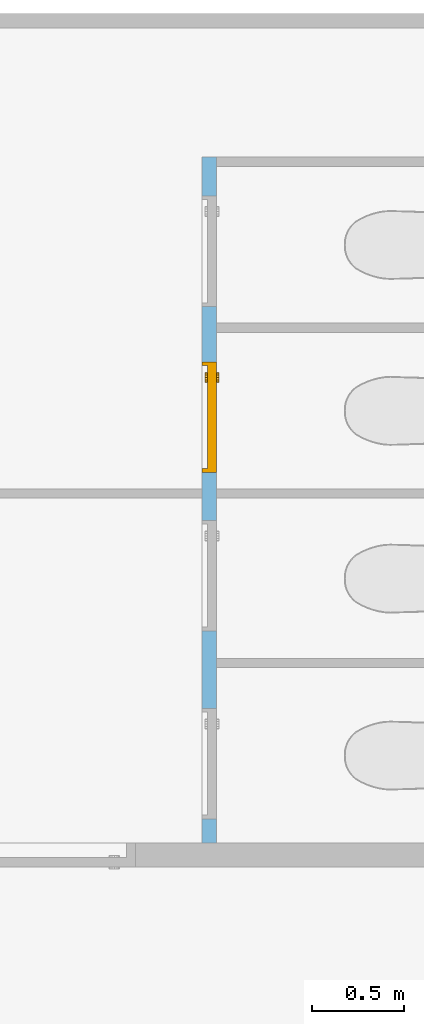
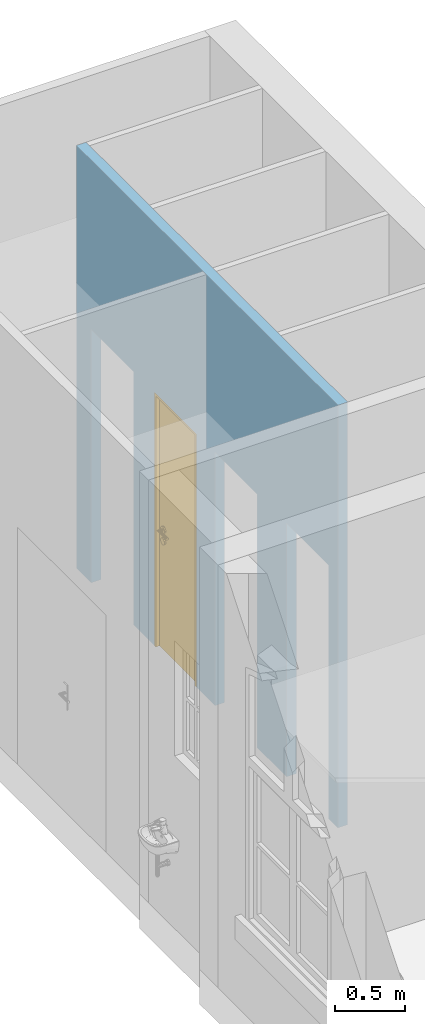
"""IFC4 building model written with IfcOpenShell, lengths in metres."""

import ifcopenshell
import ifcopenshell.guid

model = None  # the IFC model being written
_history = None  # IfcOwnerHistory: only IFC2X3 demands one
_inside = {}  # id of a spatial element -> (the spatial element, [elements in it])
_under = {}  # id of a project, library or spatial element -> (it, [spatial elements below it])
_declared = {}  # id of a project -> (the project, [libraries it declares])
_typed = {}  # id of a type object -> (the type object, [elements of that type])
_made_of = {}  # id of a material, layer set ... -> (it, [elements and type objects made of it])


def new_model(schema):
    """Start an empty IFC model of exactly this schema.

    Asked for "IFC4X3", IfcOpenShell would pick the latest addendum, in which some entities
    have other attributes; the version numbers below select the first issue.
    IFC2X3 requires an IfcOwnerHistory on every rooted entity: one is made here for all.
    """
    global model, _history
    if schema == "IFC4X3":
        model = ifcopenshell.file(schema_version=(4, 3, 0, 0))
    else:
        model = ifcopenshell.file(schema=schema)
    _inside.clear()
    _under.clear()
    _declared.clear()
    _typed.clear()
    _made_of.clear()
    _history = None
    if model.schema == "IFC2X3":
        org = make("IfcOrganization", Name="unknown")
        user = make(
            "IfcPersonAndOrganization",
            ThePerson=make("IfcPerson", FamilyName="unknown"),
            TheOrganization=org,
        )
        app = make(
            "IfcApplication",
            ApplicationDeveloper=org,
            Version="unknown",
            ApplicationFullName="unknown",
            ApplicationIdentifier="unknown",
        )
        _history = make(
            "IfcOwnerHistory",
            OwningUser=user,
            OwningApplication=app,
            ChangeAction="ADDED",
            CreationDate=0,
        )
    return model


def make(cls, **values):
    """One entity of the class cls with the attributes given. An attribute that is None is left unset."""
    return model.create_entity(
        cls, **{name: value for name, value in values.items() if value is not None}
    )


def entity(cls, *values):
    """Any entity or typed value of the class cls, its attributes in the order of the schema. None: left unset."""
    e = model.create_entity(cls)
    for i, value in enumerate(values):
        if value is not None:
            e[i] = value
    return e


def rooted(cls, **values):
    """An entity with a GlobalId (a new one), such as an element, a storey or a relation."""
    return make(cls, GlobalId=ifcopenshell.guid.new(), OwnerHistory=_history, **values)


def si_unit(unit_type, name, prefix=None):
    """IfcSIUnit, for example si_unit("LENGTHUNIT", "METRE", prefix="MILLI")."""
    return make("IfcSIUnit", UnitType=unit_type, Prefix=prefix, Name=name)


def converted_unit(unit_type, name, factor, base, dimensions=None, offset=None):
    """IfcConversionBasedUnit, such as the inch: factor (a typed value) times the base unit."""
    return make(
        "IfcConversionBasedUnit"
        if offset is None
        else "IfcConversionBasedUnitWithOffset",
        ConversionOffset=offset,
        Dimensions=None
        if dimensions is None
        else entity("IfcDimensionalExponents", *dimensions),
        UnitType=unit_type,
        Name=name,
        ConversionFactor=make(
            "IfcMeasureWithUnit", ValueComponent=factor, UnitComponent=base
        ),
    )


def derived_unit(unit_type, elements):
    """IfcDerivedUnit: a product of units, each with its exponent."""
    return make(
        "IfcDerivedUnit",
        Elements=[
            make("IfcDerivedUnitElement", Unit=unit, Exponent=power)
            for unit, power in elements
        ],
        UnitType=unit_type,
    )


def assignment(units):
    """IfcUnitAssignment: the units of a project."""
    return None if units is None else make("IfcUnitAssignment", Units=units)


def point(xyz):
    """IfcCartesianPoint."""
    return None if xyz is None else make("IfcCartesianPoint", Coordinates=xyz)


def direction(xyz):
    """IfcDirection."""
    return None if xyz is None else make("IfcDirection", DirectionRatios=xyz)


def frame(location, z_axis=None, x_axis=None):
    """IfcAxis2Placement3D, a coordinate frame: its origin and axes. An axis left out is left unset."""
    return make(
        "IfcAxis2Placement3D",
        Location=point(location),
        Axis=direction(z_axis),
        RefDirection=direction(x_axis),
    )


def frame_2d(location, x_axis=None):
    """IfcAxis2Placement2D, a coordinate frame in the plane: its origin and x axis."""
    return make(
        "IfcAxis2Placement2D", Location=point(location), RefDirection=direction(x_axis)
    )


def origin():
    """The frame at (0, 0, 0) with its axes left unset."""
    return frame((0.0, 0.0, 0.0))


def origin_with_axes():
    """The frame at (0, 0, 0) with the z axis (0, 0, 1) and the x axis (1, 0, 0) written out."""
    return frame((0.0, 0.0, 0.0), z_axis=(0.0, 0.0, 1.0), x_axis=(1.0, 0.0, 0.0))


def place(relative_to, where):
    """IfcLocalPlacement: puts the frame where relative to a parent placement (None: the world)."""
    return make(
        "IfcLocalPlacement", PlacementRelTo=relative_to, RelativePlacement=where
    )


def context(
    kind, dimensions, precision=None, world=None, true_north=None, identifier=None
):
    """IfcGeometricRepresentationContext, for example the 3D "Model" context."""
    return make(
        "IfcGeometricRepresentationContext",
        ContextIdentifier=identifier,
        ContextType=kind,
        CoordinateSpaceDimension=dimensions,
        Precision=precision,
        WorldCoordinateSystem=world,
        TrueNorth=true_north,
    )


def subcontext(parent, identifier, kind, view, scale=None):
    """IfcGeometricRepresentationSubContext, for example "Body" below "Model"."""
    return make(
        "IfcGeometricRepresentationSubContext",
        ContextIdentifier=identifier,
        ContextType=kind,
        ParentContext=parent,
        TargetScale=scale,
        TargetView=view,
    )


def project(units=None, contexts=None):
    """IfcProject with its units and contexts."""
    return rooted(
        "IfcProject",
        Name="project",
        RepresentationContexts=contexts,
        UnitsInContext=assignment(units),
    )


def spatial(cls, under=None, at=None, **own):
    """A site, building, storey or space (cls), placed at a placement, below another one or the project."""
    s = rooted(cls, ObjectPlacement=at, **own)
    if under is not None:
        _under.setdefault(under.id(), (under, []))[1].append(s)
    return s


def polyline(points):
    """IfcPolyline through the points."""
    return make("IfcPolyline", Points=[point(p) for p in points])


def profile(cls, at=None, kind="AREA", **sizes):
    """A parametric profile (cls). Its sizes go by their IFC names, for example OverallWidth=200.0."""
    return make(cls, ProfileType=kind, Position=at, **sizes)


def rectangle(**sizes):
    """IfcRectangleProfileDef."""
    return profile("IfcRectangleProfileDef", **sizes)


def outline(outer, holes=None, kind="AREA"):
    """IfcArbitraryClosedProfileDef: a profile drawn as a closed curve; with holes, ...WithVoids."""
    if holes is None:
        return make("IfcArbitraryClosedProfileDef", ProfileType=kind, OuterCurve=outer)
    return make(
        "IfcArbitraryProfileDefWithVoids",
        ProfileType=kind,
        OuterCurve=outer,
        InnerCurves=holes,
    )


def extrude(swept, where, along, depth):
    """IfcExtrudedAreaSolid: the profile swept, set in the frame where, extruded along a direction by depth."""
    return make(
        "IfcExtrudedAreaSolid",
        SweptArea=swept,
        Position=where,
        ExtrudedDirection=direction(along),
        Depth=depth,
    )


def faces_of(points, faces, orient=None, outer=None):
    """IfcFace entities. A face is a list of loops; a loop is a list of indices into points, from 0.

    orient and outer hold one flag for each loop. By default every Orientation is true, the
    first loop of a face is its IfcFaceOuterBound and the others are IfcFaceBound.
    """
    made = []
    for i, loops in enumerate(faces):
        bounds = []
        for j, loop in enumerate(loops):
            is_outer = j == 0 if outer is None else outer[i][j]
            bounds.append(
                make(
                    "IfcFaceOuterBound" if is_outer else "IfcFaceBound",
                    Bound=make("IfcPolyLoop", Polygon=[points[k] for k in loop]),
                    Orientation=True if orient is None else orient[i][j],
                )
            )
        made.append(make("IfcFace", Bounds=bounds))
    return made


def faceted_brep(points, faces, orient=None, outer=None, voids=None):
    """IfcFacetedBrep: a solid bounded by flat faces; with voids (closed shells), ...WithVoids."""
    shared = [point(p) for p in points]
    hull = make("IfcClosedShell", CfsFaces=faces_of(shared, faces, orient, outer))
    if voids is None:
        return make("IfcFacetedBrep", Outer=hull)
    return make(
        "IfcFacetedBrepWithVoids",
        Outer=hull,
        Voids=[
            make(cls, CfsFaces=faces_of(shared, fs, o, b)) for cls, fs, o, b in voids
        ],
    )


def shape(context_of_items, identifier, shape_type, items):
    """IfcShapeRepresentation: the items that make up one representation, for example the "Body"."""
    return make(
        "IfcShapeRepresentation",
        ContextOfItems=context_of_items,
        RepresentationIdentifier=identifier,
        RepresentationType=shape_type,
        Items=items,
    )


def source(mapping_origin, context_of_items, identifier, shape_type, items):
    """IfcRepresentationMap: a shape defined once, which mapped items show again and again."""
    return make(
        "IfcRepresentationMap",
        MappingOrigin=mapping_origin,
        MappedRepresentation=shape(context_of_items, identifier, shape_type, items),
    )


def transform(
    local_origin,
    x_axis=None,
    y_axis=None,
    z_axis=None,
    scale=None,
    scale2=None,
    scale3=None,
    uniform=True,
):
    """IfcCartesianTransformationOperator3D, or its non-uniform kind. x_axis, y_axis, z_axis: its Axis1, 2, 3."""
    if uniform:
        return make(
            "IfcCartesianTransformationOperator3D",
            Axis1=direction(x_axis),
            Axis2=direction(y_axis),
            LocalOrigin=point(local_origin),
            Scale=scale,
            Axis3=direction(z_axis),
        )
    return make(
        "IfcCartesianTransformationOperator3DnonUniform",
        Axis1=direction(x_axis),
        Axis2=direction(y_axis),
        LocalOrigin=point(local_origin),
        Scale=scale,
        Axis3=direction(z_axis),
        Scale2=scale2,
        Scale3=scale3,
    )


def mapped(mapping_source, mapping_target):
    """IfcMappedItem: shows the shape of a source again, moved by a transform."""
    return make(
        "IfcMappedItem", MappingSource=mapping_source, MappingTarget=mapping_target
    )


def material(Name=None, Category=None):
    """IfcMaterial."""
    return make("IfcMaterial", Name=Name, Category=Category)


def layer(
    of_material, thickness, ventilated=None, Name=None, Category=None, Priority=None
):
    """IfcMaterialLayer: one layer of a wall or slab, of a material (None: an air gap)."""
    return make(
        "IfcMaterialLayer",
        Material=of_material,
        LayerThickness=thickness,
        IsVentilated=ventilated,
        Name=Name,
        Category=Category,
        Priority=Priority,
    )


def layer_set(layers, Name=None):
    """IfcMaterialLayerSet."""
    return make("IfcMaterialLayerSet", MaterialLayers=layers, LayerSetName=Name)


def layer_usage(for_layer_set, set_direction, sense, offset, extent=None):
    """IfcMaterialLayerSetUsage: how a layer set lies in its element."""
    return make(
        "IfcMaterialLayerSetUsage",
        ForLayerSet=for_layer_set,
        LayerSetDirection=set_direction,
        DirectionSense=sense,
        OffsetFromReferenceLine=offset,
        ReferenceExtent=extent,
    )


def made_of(thing, what):
    """Note that an element or type object is made of a material, layer set ...; save() writes the relation."""
    if what is not None:
        _made_of.setdefault(what.id(), (what, []))[1].append(thing)
    return thing


def type_object(cls, material=None, **own):
    """A type object (cls), such as IfcWallType, which elements share."""
    return made_of(rooted(cls, **own), material)


def element(
    cls,
    number,
    at=None,
    inside=None,
    cuts=None,
    type_object=None,
    material=None,
    context=None,
    identifier="Body",
    shape_type=None,
    held_by="IfcProductDefinitionShape",
    body=None,
    shapes=None,
    **own,
):
    """One element of the class cls, such as IfcWall. Its Tag is "e" and its number.

    at: its placement. inside: the storey or other place that contains it. cuts: it is an
    opening in that element (IfcRelVoidsElement). A single representation is given by context,
    identifier, shape_type and body (its items); several are given by shapes. held_by: the class
    of the entity that holds the representations. save() writes the other relations.
    """
    e = rooted(cls, Tag="e%d" % number, ObjectPlacement=at, **own)
    if body is not None:
        shapes = [shape(context, identifier, shape_type, body)]
    if shapes is not None:
        e.Representation = make(held_by, Representations=shapes)
    if inside is not None:
        _inside.setdefault(inside.id(), (inside, []))[1].append(e)
    if cuts is not None:
        rooted(
            "IfcRelVoidsElement", RelatingBuildingElement=cuts, RelatedOpeningElement=e
        )
    if type_object is not None:
        _typed.setdefault(type_object.id(), (type_object, []))[1].append(e)
    return made_of(e, material)


def fill(opening, filler):
    """IfcRelFillsElement: the door or window that sits in an opening."""
    return rooted(
        "IfcRelFillsElement",
        RelatingOpeningElement=opening,
        RelatedBuildingElement=filler,
    )


def aggregate(whole, parts):
    """IfcRelAggregates: a whole, such as a stair, and the parts it consists of."""
    return rooted("IfcRelAggregates", RelatingObject=whole, RelatedObjects=parts)


def save(model, path):
    """Write the relations noted so far, then the file.

    IfcRelAggregates (storeys below a building ...), IfcRelContainedInSpatialStructure (elements
    in a storey), IfcRelDefinesByType, IfcRelAssociatesMaterial and IfcRelDeclares: one each for
    every whole, place, type object, material and project.
    """
    for whole, parts in _under.values():
        aggregate(whole, parts)
    for where, things in _inside.values():
        rooted(
            "IfcRelContainedInSpatialStructure",
            RelatedElements=things,
            RelatingStructure=where,
        )
    for kind, things in _typed.values():
        rooted("IfcRelDefinesByType", RelatedObjects=things, RelatingType=kind)
    for what, things in _made_of.values():
        rooted("IfcRelAssociatesMaterial", RelatedObjects=things, RelatingMaterial=what)
    for by, libraries in _declared.values():
        rooted("IfcRelDeclares", RelatingContext=by, RelatedDefinitions=libraries)
    model.write(path)


model = new_model("IFC4")

# Units and contexts
model_context = context("Model", 3, precision=1e-05, world=origin())
body_context = subcontext(model_context, "Body", "Model", "MODEL_VIEW")
ifc_project = project(units=[si_unit("LENGTHUNIT", "METRE"), si_unit("AREAUNIT", "SQUARE_METRE"), si_unit("VOLUMEUNIT", "CUBIC_METRE"), si_unit("MASSUNIT", "GRAM", prefix="KILO"), converted_unit("PLANEANGLEUNIT", "DEGREE", entity("IfcPlaneAngleMeasure", 0.0174532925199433), si_unit("PLANEANGLEUNIT", "RADIAN"), dimensions=[0, 0, 0, 0, 0, 0, 0]), derived_unit("THERMALTRANSMITTANCEUNIT", [(si_unit("POWERUNIT", "WATT"), 1), (si_unit("THERMODYNAMICTEMPERATUREUNIT", "KELVIN"), -1), (si_unit("LENGTHUNIT", "METRE"), -2)]), derived_unit("VOLUMETRICFLOWRATEUNIT", [(si_unit("LENGTHUNIT", "METRE"), 3), (converted_unit("TIMEUNIT", "hour", entity("IfcTimeMeasure", 3600.0), si_unit("TIMEUNIT", "SECOND"), dimensions=[0, 0, 1, 0, 0, 0, 0]), -1), (si_unit("LENGTHUNIT", "METRE"), -1)])], contexts=[model_context])

# Building, storeys
building_placement = place(None, origin())
building = spatial("IfcBuilding", under=ifc_project, at=building_placement, Name="Bestandsgebäude A - Sporthalle / Wohnhaus (TB 100-499)   ANPASSEN !!!", CompositionType="ELEMENT")
storey_1_placement = place(building_placement, origin())
storey_1 = spatial("IfcBuildingStorey", under=building, at=storey_1_placement, Name="Geb. A Erdgeschoss (TB 200-249)", CompositionType="ELEMENT", Elevation=0.0)
storey_2_placement = place(storey_1_placement, origin())
storey_2 = spatial("IfcBuildingStorey", under=storey_1, at=storey_2_placement, Name="Architektur (TB 200-209)", CompositionType="PARTIAL")

# Wall, openings, door
ifc_material = material(Name="masonry")
ifc_layer = layer(ifc_material, 0.08)
ifc_layer_set = layer_set([ifc_layer])
ifc_layer_usage = layer_usage(ifc_layer_set, "AXIS2", "POSITIVE", 0.0)
wall_placement = place(storey_2_placement, frame((-1.75999999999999, 20.98, 0.0), z_axis=(0.0, 0.0, 1.0), x_axis=(0.0, -1.0, 0.0)))
wall = element("IfcWall", 1, at=wall_placement, inside=storey_2, material=ifc_layer_usage, Name="masonry load-bearing", PredefinedType="USERDEFINED", context=body_context, shape_type="SweptSolid", body=[
    extrude(rectangle(XDim=3.72000000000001, YDim=0.08, at=frame_2d((1.86, 0.04), x_axis=(1.0, 0.0))), origin_with_axes(), (0.0, 0.0, 1.0), 3.67),
])
opening_1_placement = place(wall_placement, frame((0.210000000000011, 0.0, 0.0), z_axis=(0.0, 1.0, 0.0), x_axis=(0.0, 0.0, 1.0)))
element("IfcOpeningElement", 2, at=opening_1_placement, cuts=wall, Name="Door opening", PredefinedType="OPENING", context=body_context, shape_type="SweptSolid", body=[
    extrude(outline(polyline([(2.2, 0.6), (2.2, 0.0), (0.0, 0.0), (0.0, 0.6), (2.2, 0.6)])), origin_with_axes(), (0.0, 0.0, 1.0), 0.08),
])
opening_2_placement = place(wall_placement, frame((1.11000000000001, 0.0, 0.0), z_axis=(0.0, 1.0, 0.0), x_axis=(0.0, 0.0, 1.0)))
opening_2 = element("IfcOpeningElement", 3, at=opening_2_placement, cuts=wall, Name="Door opening", PredefinedType="OPENING", context=body_context, shape_type="SweptSolid", body=[
    extrude(outline(polyline([(2.2, 0.6), (2.2, 0.0), (0.0, 0.0), (0.0, 0.6), (2.2, 0.6)])), origin_with_axes(), (0.0, 0.0, 1.0), 0.08),
])
opening_3_placement = place(wall_placement, frame((2.99000000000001, 0.0, 0.0), z_axis=(0.0, 1.0, 0.0), x_axis=(0.0, 0.0, 1.0)))
element("IfcOpeningElement", 4, at=opening_3_placement, cuts=wall, Name="Door opening", PredefinedType="OPENING", context=body_context, shape_type="SweptSolid", body=[
    extrude(outline(polyline([(2.2, 0.6), (2.2, 0.0), (0.0, 0.0), (0.0, 0.6), (2.2, 0.6)])), origin_with_axes(), (0.0, 0.0, 1.0), 0.08),
])
opening_4_placement = place(wall_placement, frame((1.97000000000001, 0.0, 0.0), z_axis=(0.0, 1.0, 0.0), x_axis=(0.0, 0.0, 1.0)))
element("IfcOpeningElement", 5, at=opening_4_placement, cuts=wall, Name="Door opening", PredefinedType="OPENING", context=body_context, shape_type="SweptSolid", body=[
    extrude(outline(polyline([(2.2, 0.6), (2.2, 0.0), (0.0, 0.0), (0.0, 0.6), (2.2, 0.6)])), origin_with_axes(), (0.0, 0.0, 1.0), 0.08),
])
door_type = type_object("IfcDoorType", Name="door", OperationType="SINGLE_SWING_RIGHT", ParameterTakesPrecedence=False, PredefinedType="DOOR")
shared_shape = source(origin_with_axes(), body_context, "Body", "Brep", [
    faceted_brep([(0.0, 0.0800000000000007, 2.2), (0.0, 0.0800000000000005, 0.0), (0.0200000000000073, 0.0800000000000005, 0.0), (0.0200000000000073, 0.0800000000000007, 2.2), (0.0, 0.0, 0.0), (0.0, 0.0, 2.2), (0.0200000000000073, 0.0, 2.2), (0.0200000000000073, 0.0, 0.0)], [[[0, 1, 2, 3]], [[4, 5, 6, 7]], [[1, 0, 5, 4]], [[2, 1, 4, 7]], [[3, 2, 7, 6]], [[0, 3, 6, 5]]], orient=[[False], [False], [False], [False], [False], [False]]),
    faceted_brep([(0.580000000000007, 0.0800000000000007, 2.2), (0.580000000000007, 0.0800000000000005, 0.0), (0.600000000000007, 0.0800000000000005, 0.0), (0.600000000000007, 0.0800000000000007, 2.2), (0.580000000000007, 0.0, 0.0), (0.580000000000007, 0.0, 2.2), (0.600000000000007, 0.0, 2.2), (0.600000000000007, 0.0, 0.0)], [[[0, 1, 2, 3]], [[4, 5, 6, 7]], [[1, 0, 5, 4]], [[2, 1, 4, 7]], [[3, 2, 7, 6]], [[0, 3, 6, 5]]], orient=[[False], [False], [False], [False], [False], [False]]),
    faceted_brep([(0.0200000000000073, 0.0800000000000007, 2.2), (0.0200000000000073, 0.0800000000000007, 2.18), (0.580000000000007, 0.0800000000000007, 2.18), (0.580000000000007, 0.0800000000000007, 2.2), (0.0200000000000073, 0.0, 2.18), (0.0200000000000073, 0.0, 2.2), (0.580000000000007, 0.0, 2.2), (0.580000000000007, 0.0, 2.18)], [[[0, 1, 2, 3]], [[4, 5, 6, 7]], [[1, 0, 5, 4]], [[2, 1, 4, 7]], [[3, 2, 7, 6]], [[0, 3, 6, 5]]], orient=[[False], [False], [False], [False], [False], [False]]),
    faceted_brep([(0.0200000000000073, 0.0800000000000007, 2.18), (0.0200000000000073, 0.0800000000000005, 0.0), (0.580000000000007, 0.0800000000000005, 0.0), (0.580000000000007, 0.0800000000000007, 2.18), (0.0200000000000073, 0.0300000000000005, 0.0), (0.0200000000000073, 0.0300000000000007, 2.18), (0.580000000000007, 0.0300000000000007, 2.18), (0.580000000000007, 0.0300000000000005, 0.0)], [[[0, 1, 2, 3]], [[4, 5, 6, 7]], [[1, 0, 5, 4]], [[2, 1, 4, 7]], [[3, 2, 7, 6]], [[0, 3, 6, 5]]], orient=[[False], [False], [False], [False], [False], [False]]),
    faceted_brep([(0.108815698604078, 0.0300000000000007, 0.93625), (0.112500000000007, 0.0300000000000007, 0.95), (0.108815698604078, 0.0300000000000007, 0.96375), (0.0987500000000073, 0.0300000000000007, 0.973815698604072), (0.0850000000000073, 0.0300000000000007, 0.9775), (0.0712500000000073, 0.0300000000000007, 0.973815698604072), (0.0611843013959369, 0.0300000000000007, 0.96375), (0.0575000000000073, 0.0300000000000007, 0.95), (0.0611843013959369, 0.0300000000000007, 0.93625), (0.0712500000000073, 0.0300000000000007, 0.926184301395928), (0.0850000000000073, 0.0300000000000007, 0.9225), (0.0987500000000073, 0.0300000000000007, 0.926184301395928), (0.112500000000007, 0.0175000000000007, 0.95), (0.108815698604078, 0.0175000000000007, 0.93625), (0.0987500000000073, 0.0175000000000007, 0.926184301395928), (0.0850000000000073, 0.0175000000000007, 0.9225), (0.0712500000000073, 0.0175000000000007, 0.926184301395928), (0.0611843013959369, 0.0175000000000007, 0.93625), (0.0575000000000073, 0.0175000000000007, 0.95), (0.0611843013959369, 0.0175000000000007, 0.96375), (0.0712500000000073, 0.0175000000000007, 0.973815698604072), (0.0850000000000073, 0.0175000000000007, 0.9775), (0.0987500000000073, 0.0175000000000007, 0.973815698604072), (0.108815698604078, 0.0175000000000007, 0.96375)], [[[0, 1, 2, 3, 4, 5, 6, 7, 8, 9, 10, 11]], [[12, 13, 14, 15, 16, 17, 18, 19, 20, 21, 22, 23]], [[1, 0, 13, 12]], [[2, 1, 12, 23]], [[3, 2, 23, 22]], [[4, 3, 22, 21]], [[5, 4, 21, 20]], [[6, 5, 20, 19]], [[7, 6, 19, 18]], [[8, 7, 18, 17]], [[9, 8, 17, 16]], [[10, 9, 16, 15]], [[11, 10, 15, 14]], [[0, 11, 14, 13]]], orient=[[False], [False], [False], [False], [False], [False], [False], [False], [False], [False], [False], [False], [False], [False]]),
    faceted_brep([(0.108815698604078, 0.0300000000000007, 1.03625), (0.112500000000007, 0.0300000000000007, 1.05), (0.108815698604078, 0.0300000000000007, 1.06375), (0.0987500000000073, 0.0300000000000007, 1.07381569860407), (0.0850000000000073, 0.0300000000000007, 1.0775), (0.0712500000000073, 0.0300000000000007, 1.07381569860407), (0.0611843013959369, 0.0300000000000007, 1.06375), (0.0575000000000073, 0.0300000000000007, 1.05), (0.0611843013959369, 0.0300000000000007, 1.03625), (0.0712500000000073, 0.0300000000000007, 1.02618430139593), (0.0850000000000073, 0.0300000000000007, 1.0225), (0.0987500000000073, 0.0300000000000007, 1.02618430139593), (0.112500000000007, 0.0175000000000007, 1.05), (0.108815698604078, 0.0175000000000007, 1.03625), (0.0987500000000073, 0.0175000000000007, 1.02618430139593), (0.0850000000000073, 0.0175000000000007, 1.0225), (0.0712500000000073, 0.0175000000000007, 1.02618430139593), (0.0611843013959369, 0.0175000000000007, 1.03625), (0.0575000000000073, 0.0175000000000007, 1.05), (0.0611843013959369, 0.0175000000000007, 1.06375), (0.0712500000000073, 0.0175000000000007, 1.07381569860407), (0.0850000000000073, 0.0175000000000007, 1.0775), (0.0987500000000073, 0.0175000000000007, 1.07381569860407), (0.108815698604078, 0.0175000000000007, 1.06375)], [[[0, 1, 2, 3, 4, 5, 6, 7, 8, 9, 10, 11]], [[12, 13, 14, 15, 16, 17, 18, 19, 20, 21, 22, 23]], [[1, 0, 13, 12]], [[2, 1, 12, 23]], [[3, 2, 23, 22]], [[4, 3, 22, 21]], [[5, 4, 21, 20]], [[6, 5, 20, 19]], [[7, 6, 19, 18]], [[8, 7, 18, 17]], [[9, 8, 17, 16]], [[10, 9, 16, 15]], [[11, 10, 15, 14]], [[0, 11, 14, 13]]], orient=[[False], [False], [False], [False], [False], [False], [False], [False], [False], [False], [False], [False], [False], [False]]),
    faceted_brep([(0.0850000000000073, 0.0300000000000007, 1.06), (0.0800000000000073, 0.0300000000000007, 1.05866025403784), (0.0763397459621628, 0.0300000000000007, 1.055), (0.0750000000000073, 0.0300000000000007, 1.05), (0.0763397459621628, 0.0300000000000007, 1.045), (0.0800000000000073, 0.0300000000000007, 1.04133974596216), (0.0850000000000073, 0.0300000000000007, 1.04), (0.0900000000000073, 0.0300000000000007, 1.04133974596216), (0.0936602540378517, 0.0300000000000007, 1.045), (0.0950000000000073, 0.0300000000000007, 1.05), (0.0936602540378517, 0.0300000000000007, 1.055), (0.0900000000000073, 0.0300000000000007, 1.05866025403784), (0.0850000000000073, -0.00999999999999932, 1.06), (0.0800000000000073, -0.0149999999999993, 1.05866025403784), (0.0763397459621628, -0.0186602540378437, 1.055), (0.0750000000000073, -0.0199999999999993, 1.05), (0.0763397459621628, -0.0186602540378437, 1.045), (0.0800000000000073, -0.0149999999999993, 1.04133974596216), (0.0850000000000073, -0.00999999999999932, 1.04), (0.0900000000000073, -0.00499999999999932, 1.04133974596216), (0.0936602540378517, -0.00133974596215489, 1.045), (0.0950000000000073, 0.0, 1.05), (0.0936602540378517, -0.00133974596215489, 1.055), (0.0900000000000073, -0.00499999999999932, 1.05866025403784), (0.200000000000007, -0.00999999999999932, 1.06), (0.200000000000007, -0.00499999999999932, 1.05866025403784), (0.200000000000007, -0.00133974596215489, 1.055), (0.200000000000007, 0.0, 1.05), (0.200000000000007, -0.00133974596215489, 1.045), (0.200000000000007, -0.00499999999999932, 1.04133974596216), (0.200000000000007, -0.00999999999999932, 1.04), (0.200000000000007, -0.0149999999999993, 1.04133974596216), (0.200000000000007, -0.0186602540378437, 1.045), (0.200000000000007, -0.0199999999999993, 1.05), (0.200000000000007, -0.0186602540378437, 1.055), (0.200000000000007, -0.0149999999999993, 1.05866025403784)], [[[0, 1, 2, 3, 4, 5, 6, 7, 8, 9, 10, 11]], [[0, 12, 13, 1]], [[1, 13, 14, 2]], [[2, 14, 15, 3]], [[3, 15, 16, 4]], [[4, 16, 17, 5]], [[5, 17, 18, 6]], [[6, 18, 19, 7]], [[7, 19, 20, 8]], [[8, 20, 21, 9]], [[9, 21, 22, 10]], [[10, 22, 23, 11]], [[11, 23, 12, 0]], [[24, 25, 26, 27, 28, 29, 30, 31, 32, 33, 34, 35]], [[12, 24, 35, 13]], [[13, 35, 34, 14]], [[14, 34, 33, 15]], [[15, 33, 32, 16]], [[16, 32, 31, 17]], [[17, 31, 30, 18]], [[18, 30, 29, 19]], [[19, 29, 28, 20]], [[20, 28, 27, 21]], [[21, 27, 26, 22]], [[22, 26, 25, 23]], [[23, 25, 24, 12]]], orient=[[False], [False], [False], [False], [False], [False], [False], [False], [False], [False], [False], [False], [False], [False], [False], [False], [False], [False], [False], [False], [False], [False], [False], [False], [False], [False]]),
    faceted_brep([(0.108815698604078, 0.0800000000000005, 0.93625), (0.0987500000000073, 0.0800000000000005, 0.926184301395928), (0.0850000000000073, 0.0800000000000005, 0.9225), (0.0712500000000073, 0.0800000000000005, 0.926184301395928), (0.0611843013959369, 0.0800000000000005, 0.93625), (0.0575000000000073, 0.0800000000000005, 0.95), (0.0611843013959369, 0.0800000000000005, 0.96375), (0.0712500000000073, 0.0800000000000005, 0.973815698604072), (0.0850000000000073, 0.0800000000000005, 0.9775), (0.0987500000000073, 0.0800000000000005, 0.973815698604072), (0.108815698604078, 0.0800000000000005, 0.96375), (0.112500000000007, 0.0800000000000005, 0.95), (0.112500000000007, 0.0925000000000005, 0.95), (0.108815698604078, 0.0925000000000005, 0.96375), (0.0987500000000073, 0.0925000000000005, 0.973815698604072), (0.0850000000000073, 0.0925000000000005, 0.9775), (0.0712500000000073, 0.0925000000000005, 0.973815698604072), (0.0611843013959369, 0.0925000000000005, 0.96375), (0.0575000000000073, 0.0925000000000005, 0.95), (0.0611843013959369, 0.0925000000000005, 0.93625), (0.0712500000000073, 0.0925000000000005, 0.926184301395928), (0.0850000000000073, 0.0925000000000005, 0.9225), (0.0987500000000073, 0.0925000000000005, 0.926184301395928), (0.108815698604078, 0.0925000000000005, 0.93625)], [[[0, 1, 2, 3, 4, 5, 6, 7, 8, 9, 10, 11]], [[12, 13, 14, 15, 16, 17, 18, 19, 20, 21, 22, 23]], [[11, 12, 23, 0]], [[10, 13, 12, 11]], [[9, 14, 13, 10]], [[8, 15, 14, 9]], [[7, 16, 15, 8]], [[6, 17, 16, 7]], [[5, 18, 17, 6]], [[4, 19, 18, 5]], [[3, 20, 19, 4]], [[2, 21, 20, 3]], [[1, 22, 21, 2]], [[0, 23, 22, 1]]], orient=[[False], [False], [False], [False], [False], [False], [False], [False], [False], [False], [False], [False], [False], [False]]),
    faceted_brep([(0.108815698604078, 0.0800000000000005, 1.03625), (0.0987500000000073, 0.0800000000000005, 1.02618430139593), (0.0850000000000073, 0.0800000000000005, 1.0225), (0.0712500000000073, 0.0800000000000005, 1.02618430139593), (0.0611843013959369, 0.0800000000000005, 1.03625), (0.0575000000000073, 0.0800000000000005, 1.05), (0.0611843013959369, 0.0800000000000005, 1.06375), (0.0712500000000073, 0.0800000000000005, 1.07381569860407), (0.0850000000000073, 0.0800000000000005, 1.0775), (0.0987500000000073, 0.0800000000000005, 1.07381569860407), (0.108815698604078, 0.0800000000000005, 1.06375), (0.112500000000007, 0.0800000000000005, 1.05), (0.112500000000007, 0.0925000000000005, 1.05), (0.108815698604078, 0.0925000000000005, 1.06375), (0.0987500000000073, 0.0925000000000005, 1.07381569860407), (0.0850000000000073, 0.0925000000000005, 1.0775), (0.0712500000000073, 0.0925000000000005, 1.07381569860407), (0.0611843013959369, 0.0925000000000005, 1.06375), (0.0575000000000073, 0.0925000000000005, 1.05), (0.0611843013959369, 0.0925000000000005, 1.03625), (0.0712500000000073, 0.0925000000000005, 1.02618430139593), (0.0850000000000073, 0.0925000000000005, 1.0225), (0.0987500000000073, 0.0925000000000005, 1.02618430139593), (0.108815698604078, 0.0925000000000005, 1.03625)], [[[0, 1, 2, 3, 4, 5, 6, 7, 8, 9, 10, 11]], [[12, 13, 14, 15, 16, 17, 18, 19, 20, 21, 22, 23]], [[11, 12, 23, 0]], [[10, 13, 12, 11]], [[9, 14, 13, 10]], [[8, 15, 14, 9]], [[7, 16, 15, 8]], [[6, 17, 16, 7]], [[5, 18, 17, 6]], [[4, 19, 18, 5]], [[3, 20, 19, 4]], [[2, 21, 20, 3]], [[1, 22, 21, 2]], [[0, 23, 22, 1]]], orient=[[False], [False], [False], [False], [False], [False], [False], [False], [False], [False], [False], [False], [False], [False]]),
    faceted_brep([(0.0850000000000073, 0.0800000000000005, 1.06), (0.0900000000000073, 0.0800000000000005, 1.05866025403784), (0.0936602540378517, 0.0800000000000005, 1.055), (0.0950000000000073, 0.0800000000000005, 1.05), (0.0936602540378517, 0.0800000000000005, 1.045), (0.0900000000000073, 0.0800000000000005, 1.04133974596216), (0.0850000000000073, 0.0800000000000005, 1.04), (0.0800000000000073, 0.0800000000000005, 1.04133974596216), (0.0763397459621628, 0.0800000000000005, 1.045), (0.0750000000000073, 0.0800000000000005, 1.05), (0.0763397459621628, 0.0800000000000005, 1.055), (0.0800000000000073, 0.0800000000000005, 1.05866025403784), (0.0800000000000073, 0.125, 1.05866025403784), (0.0850000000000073, 0.12, 1.06), (0.0763397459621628, 0.128660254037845, 1.055), (0.0750000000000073, 0.13, 1.05), (0.0763397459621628, 0.128660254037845, 1.045), (0.0800000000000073, 0.125, 1.04133974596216), (0.0850000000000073, 0.12, 1.04), (0.0900000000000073, 0.115, 1.04133974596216), (0.0936602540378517, 0.111339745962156, 1.045), (0.0950000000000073, 0.11, 1.05), (0.0936602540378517, 0.111339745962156, 1.055), (0.0900000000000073, 0.115, 1.05866025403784), (0.200000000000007, 0.12, 1.06), (0.200000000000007, 0.125, 1.05866025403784), (0.200000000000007, 0.128660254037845, 1.055), (0.200000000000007, 0.13, 1.05), (0.200000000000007, 0.128660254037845, 1.045), (0.200000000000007, 0.125, 1.04133974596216), (0.200000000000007, 0.12, 1.04), (0.200000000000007, 0.115, 1.04133974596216), (0.200000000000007, 0.111339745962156, 1.045), (0.200000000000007, 0.11, 1.05), (0.200000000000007, 0.111339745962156, 1.055), (0.200000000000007, 0.115, 1.05866025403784)], [[[0, 1, 2, 3, 4, 5, 6, 7, 8, 9, 10, 11]], [[0, 11, 12, 13]], [[11, 10, 14, 12]], [[10, 9, 15, 14]], [[9, 8, 16, 15]], [[8, 7, 17, 16]], [[7, 6, 18, 17]], [[6, 5, 19, 18]], [[5, 4, 20, 19]], [[4, 3, 21, 20]], [[3, 2, 22, 21]], [[2, 1, 23, 22]], [[1, 0, 13, 23]], [[24, 25, 26, 27, 28, 29, 30, 31, 32, 33, 34, 35]], [[13, 12, 25, 24]], [[12, 14, 26, 25]], [[14, 15, 27, 26]], [[15, 16, 28, 27]], [[16, 17, 29, 28]], [[17, 18, 30, 29]], [[18, 19, 31, 30]], [[19, 20, 32, 31]], [[20, 21, 33, 32]], [[21, 22, 34, 33]], [[22, 23, 35, 34]], [[23, 13, 24, 35]]], orient=[[False], [False], [False], [False], [False], [False], [False], [False], [False], [False], [False], [False], [False], [False], [False], [False], [False], [False], [False], [False], [False], [False], [False], [False], [False], [False]]),
])
door_placement = place(opening_2_placement, frame((0.0, 0.0, 0.0), z_axis=(1.0, 0.0, 0.0), x_axis=(0.0, 1.0, 0.0)))
door = element("IfcDoor", 6, at=door_placement, inside=storey_2, type_object=door_type, Name="door", OverallHeight=2.2, OverallWidth=0.6, PredefinedType="DOOR", context=body_context, shape_type="MappedRepresentation", body=[
    mapped(shared_shape, transform((0.0, 0.0, 0.0), x_axis=(1.0, 0.0, 0.0), y_axis=(0.0, 1.0, 0.0), z_axis=(0.0, 0.0, 1.0), scale=1.0)),
])
fill(opening_2, door)

save(model, "model.ifc")
